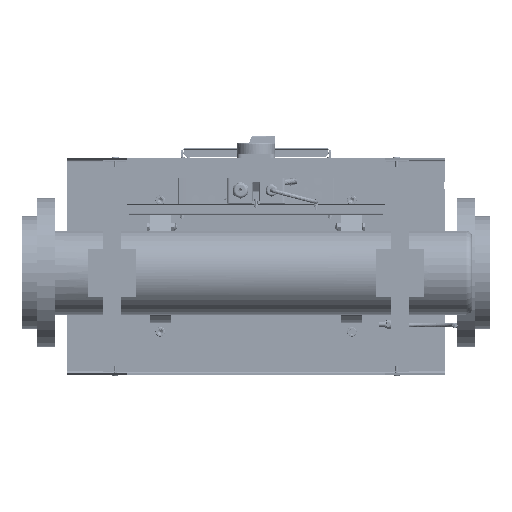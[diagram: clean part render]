
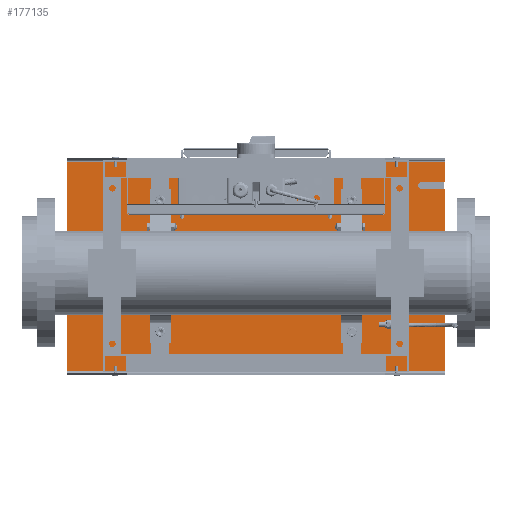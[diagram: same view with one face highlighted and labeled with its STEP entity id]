
A CAD part, front view. The second image highlights one B-rep face of the part: STEP entity #177135.
In plain terms, the highlighted planar face has unit normal (0, -1, 0).
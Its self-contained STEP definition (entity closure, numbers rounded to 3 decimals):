
#10244=CIRCLE('',#189473,6.5);
#21706=FACE_OUTER_BOUND('',#32276,.T.);
#32276=EDGE_LOOP('',(#122285,#122286,#122287,#122288,#122289,#122290,#122291,
#122292));
#44079=LINE('',#273184,#57447);
#44085=LINE('',#273196,#57453);
#44086=LINE('',#273202,#57454);
#44091=LINE('',#273211,#57459);
#44121=LINE('',#273299,#57489);
#44130=LINE('',#273321,#57498);
#44134=LINE('',#273332,#57502);
#57447=VECTOR('',#214634,10.);
#57453=VECTOR('',#214642,10.);
#57454=VECTOR('',#214651,10.);
#57459=VECTOR('',#214658,10.);
#57489=VECTOR('',#214742,10.);
#57498=VECTOR('',#214769,10.);
#57502=VECTOR('',#214785,10.);
#71589=VERTEX_POINT('',#273180);
#71591=VERTEX_POINT('',#273183);
#71594=VERTEX_POINT('',#273190);
#71596=VERTEX_POINT('',#273194);
#71597=VERTEX_POINT('',#273201);
#71600=VERTEX_POINT('',#273209);
#71631=VERTEX_POINT('',#273297);
#71635=VERTEX_POINT('',#273320);
#90327=EDGE_CURVE('',#71591,#71589,#44079,.T.);
#90333=EDGE_CURVE('',#71594,#71596,#44085,.T.);
#90335=EDGE_CURVE('',#71596,#71591,#10244,.T.);
#90336=EDGE_CURVE('',#71597,#71594,#44086,.T.);
#90341=EDGE_CURVE('',#71589,#71600,#44091,.T.);
#90384=EDGE_CURVE('',#71631,#71600,#44121,.T.);
#90396=EDGE_CURVE('',#71635,#71597,#44130,.T.);
#90403=EDGE_CURVE('',#71635,#71631,#44134,.T.);
#122285=ORIENTED_EDGE('',*,*,#90327,.T.);
#122286=ORIENTED_EDGE('',*,*,#90341,.T.);
#122287=ORIENTED_EDGE('',*,*,#90384,.F.);
#122288=ORIENTED_EDGE('',*,*,#90403,.F.);
#122289=ORIENTED_EDGE('',*,*,#90396,.T.);
#122290=ORIENTED_EDGE('',*,*,#90336,.T.);
#122291=ORIENTED_EDGE('',*,*,#90333,.T.);
#122292=ORIENTED_EDGE('',*,*,#90335,.T.);
#160841=PLANE('',#189518);
#177135=ADVANCED_FACE('',(#21706),#160841,.T.);
#189473=AXIS2_PLACEMENT_3D('',#273199,#214647,#214648);
#189518=AXIS2_PLACEMENT_3D('',#273333,#214786,#214787);
#214634=DIRECTION('',(1.,0.,0.));
#214642=DIRECTION('',(-1.,0.,0.));
#214647=DIRECTION('center_axis',(0.,1.,0.));
#214648=DIRECTION('ref_axis',(0.,0.,
1.));
#214651=DIRECTION('',(0.,0.,1.));
#214658=DIRECTION('',(0.,0.,1.));
#214742=DIRECTION('',(1.,0.,0.));
#214769=DIRECTION('',(1.,0.,0.));
#214785=DIRECTION('',(0.,0.,1.));
#214786=DIRECTION('center_axis',(0.,-1.,0.));
#214787=DIRECTION('ref_axis',(1.,0.,0.));
#273180=CARTESIAN_POINT('',(530.,1414.5,-6.5));
#273183=CARTESIAN_POINT('',(492.5,1414.5,-6.5));
#273184=CARTESIAN_POINT('',(411.051,1414.5,-6.5));
#273190=CARTESIAN_POINT('',(530.,1414.5,-19.5));
#273194=CARTESIAN_POINT('',(492.5,1414.5,-19.5));
#273196=CARTESIAN_POINT('',(353.75,1414.5,-19.5));
#273199=CARTESIAN_POINT('Origin',(492.5,1414.5,-13.));
#273201=CARTESIAN_POINT('',(530.,1414.5,-323.));
#273202=CARTESIAN_POINT('',(530.,1414.5,-1316.786));
#273209=CARTESIAN_POINT('',(530.,1414.5,27.));
#273211=CARTESIAN_POINT('',(530.,1414.5,-1316.786));
#273297=CARTESIAN_POINT('',(-100.,1414.5,27.));
#273299=CARTESIAN_POINT('',(215.,1414.5,27.));
#273320=CARTESIAN_POINT('',(-100.,1414.5,-323.));
#273321=CARTESIAN_POINT('',(215.,1414.5,-323.));
#273332=CARTESIAN_POINT('',(-100.,1414.5,-1316.786));
#273333=CARTESIAN_POINT('Origin',(215.,1414.5,-578.));
